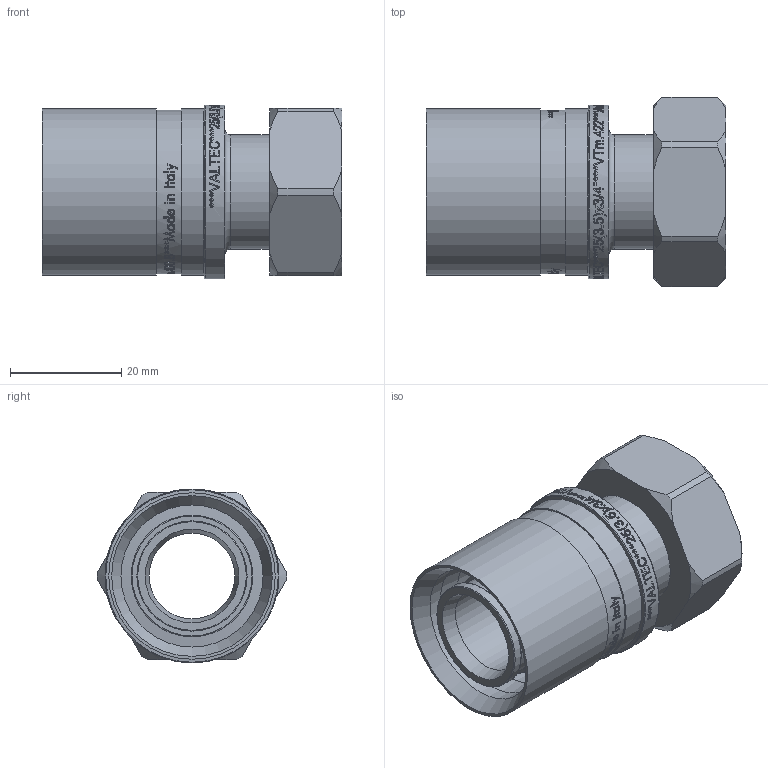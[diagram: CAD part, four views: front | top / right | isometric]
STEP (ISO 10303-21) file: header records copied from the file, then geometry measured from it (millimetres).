
FILE_DESCRIPTION(/* description */ (''),/* implementation_level */ '2;1');
FILE_NAME(/* name */ 'F:\Артём\00000\Работа удаленка\Аксеальные фитинги\VTm.422.BG.002505.stp',/* time_stamp */ '2021-01-25T16:02:52+03:00',/* author */ ('almis'),/* organization */ (''),/* preprocessor_version */ 'ST-DEVELOPER v18',/* originating_system */ 'Autodesk Inventor 2020',/* authorisation */ '');
FILE_SCHEMA (('AUTOMOTIVE_DESIGN { 1 0 10303 214 3 1 1 }'));
Length unit declared in the file: millimetre
Products named in the file (1): VTm.403.BG.001616
Bounding box: 53.81 x 34 x 31.2 mm (x, y, z)
Volume: 16009.8 mm3; surface area: 16333.6 mm2
Topology: 2 solids, 2 shells, 1399 faces, 3856 edges, 2592 vertices
Faces by surface type: bspline 787, plane 412, cylinder 154, torus 26, cone 20
Full cylindrical faces by diameter (mm): 15.4 x1, 18.3 x5, 19.8 x4, 20.5 x1, 20.6 x1, 20.85 x1, 21.8 x1, 22.4 x2, 24.1 x4, 25.5 x2, 27.7 x5, 29.3 x1, 29.85 x2, 31.2 x1
Entity records: 60388 total; most frequent: CARTESIAN_POINT 29521, ORIENTED_EDGE 7712, DIRECTION 4115, EDGE_CURVE 3856, VERTEX_POINT 2592, B_SPLINE_CURVE_WITH_KNOTS 1599, LINE 1577, VECTOR 1577
